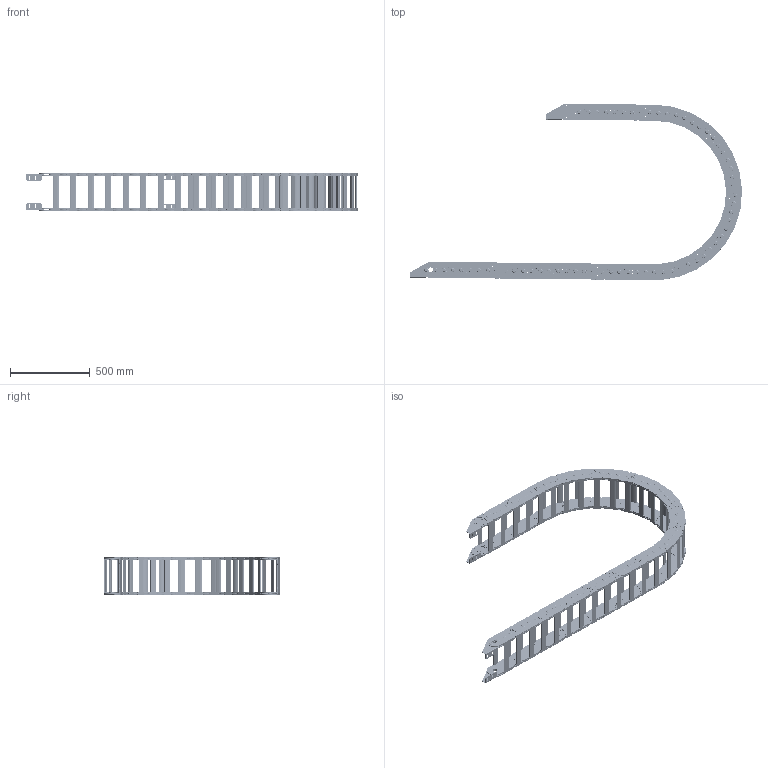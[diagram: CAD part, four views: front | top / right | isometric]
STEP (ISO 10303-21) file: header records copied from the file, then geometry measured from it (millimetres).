
FILE_DESCRIPTION((''),'2;1');
FILE_NAME('80GD-75-R500_ASM','2022-07-31T16:25:23',('admin'),(''),'CREO PARAMETRIC BY PTC INC, 2021164','CREO PARAMETRIC BY PTC INC, 2021164','');
FILE_SCHEMA(('CONFIG_CONTROL_DESIGN','GEOMETRIC_VALIDATION_PROPERTIES_MIM'));
Length unit declared in the file: millimetre
Products named in the file (5): 80-A; 80-B; 80-LTT; 80-LTT-2; 80GD-75-R500_ASM
Assembly tree (34 placements, depth 2):
  80GD-75-R500_ASM
    80-A  x16
    80-B  x16
    80-LTT
    80-LTT-2
Bounding box: 2081.46 x 1105.97 x 240.5 mm (x, y, z)
Volume: 16849699.4 mm3; surface area: 5201987.5 mm2
Topology: 132 solids, 132 shells, 5600 faces, 15166 edges, 10282 vertices
Faces by surface type: cylinder 2468, plane 2236, torus 640, cone 256
Entity records: 21525 total; most frequent: DIRECTION 3106, CARTESIAN_POINT 2870, ORIENTED_EDGE 2732, EDGE_CURVE 1366, AXIS2_PLACEMENT_3D 1201, PRESENTATION_STYLE_ASSIGNMENT 1114, STYLED_ITEM 1114, VERTEX_POINT 922
